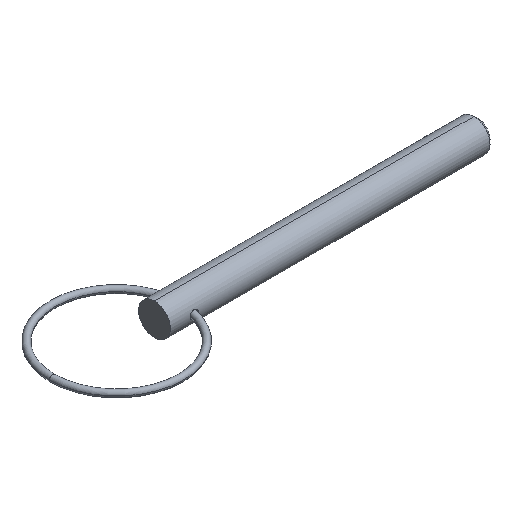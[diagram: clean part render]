
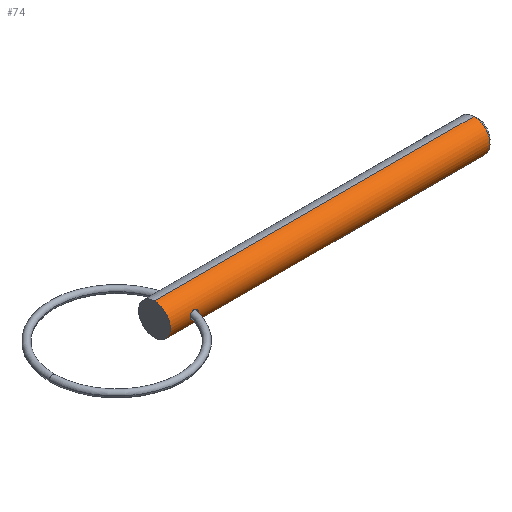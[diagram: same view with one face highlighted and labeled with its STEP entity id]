
A CAD part, isometric view. The second image highlights one B-rep face of the part: STEP entity #74.
In plain terms, the highlighted cylindrical face has radius 3.175 mm (diameter 6.35 mm), a partial arc.
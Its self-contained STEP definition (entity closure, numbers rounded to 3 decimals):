
#15 = CARTESIAN_POINT ( 'NONE',  ( 4.127, -3.138, -0.49 ) ) ;
#18 = CARTESIAN_POINT ( 'NONE',  ( 4.568, -3.075, -0.789 ) ) ;
#21 = VECTOR ( 'NONE', #733, 1000. ) ;
#22 = VERTEX_POINT ( 'NONE', #402 ) ;
#26 = ORIENTED_EDGE ( 'NONE', *, *, #762, .F. ) ;
#30 = CARTESIAN_POINT ( 'NONE',  ( 0., 0., 3.175 ) ) ;
#43 = AXIS2_PLACEMENT_3D ( 'NONE', #652, #70, #216 ) ;
#63 = CARTESIAN_POINT ( 'NONE',  ( 3.95, -3.175, 0. ) ) ;
#70 = DIRECTION ( 'NONE',  ( 1., 0., 0. ) ) ;
#74 = ADVANCED_FACE ( 'NONE', ( #286, #618 ), #626, .T. ) ;
#82 = DIRECTION ( 'NONE',  ( 1., 0., 0. ) ) ;
#89 = LINE ( 'NONE', #480, #284 ) ;
#91 = CARTESIAN_POINT ( 'NONE',  ( 0., 0., -3.175 ) ) ;
#93 = ORIENTED_EDGE ( 'NONE', *, *, #186, .T. ) ;
#110 = EDGE_CURVE ( 'NONE', #22, #294, #417, .T. ) ;
#119 = EDGE_CURVE ( 'NONE', #732, #683, #163, .T. ) ;
#131 = CARTESIAN_POINT ( 'NONE',  ( 0., 0., 0. ) ) ;
#140 = DIRECTION ( 'NONE',  ( 0., 0., -1. ) ) ;
#153 = CARTESIAN_POINT ( 'NONE',  ( 3.95, -3.175, 0. ) ) ;
#160 = LINE ( 'NONE', #91, #21 ) ;
#162 = ORIENTED_EDGE ( 'NONE', *, *, #623, .T. ) ;
#163 = B_SPLINE_CURVE_WITH_KNOTS ( 'NONE', 3,
 ( #716, #589, #527, #812, #241, #745, #512, #219, #410, #339, #475, #722, #380, #507, #394, #573 ),
 .UNSPECIFIED., .F., .F.,
 ( 4, 2, 2, 2, 2, 2, 2, 4 ),
 ( 0., 0.001, 0.001, 0.002, 0.002, 0.002, 0.003, 0.003 ),
 .UNSPECIFIED. ) ;
#168 = VERTEX_POINT ( 'NONE', #30 ) ;
#177 = CARTESIAN_POINT ( 'NONE',  ( 63.516, 0., -3.175 ) ) ;
#186 = EDGE_CURVE ( 'NONE', #470, #294, #160, .T. ) ;
#192 = CARTESIAN_POINT ( 'NONE',  ( 0., 0., 0. ) ) ;
#194 = B_SPLINE_CURVE_WITH_KNOTS ( 'NONE', 3,
 ( #341, #467, #456, #406, #724, #509, #273, #18, #283, #15, #395, #277, #522, #153 ),
 .UNSPECIFIED., .F., .F.,
 ( 4, 2, 2, 2, 2, 2, 4 ),
 ( 0.003, 0.003, 0.004, 0.004, 0.005, 0.005, 0.005 ),
 .UNSPECIFIED. ) ;
#198 = AXIS2_PLACEMENT_3D ( 'NONE', #192, #82, #140 ) ;
#216 = DIRECTION ( 'NONE',  ( 0., 0., -1. ) ) ;
#219 = CARTESIAN_POINT ( 'NONE',  ( 4.886, -3.074, 0.796 ) ) ;
#241 = CARTESIAN_POINT ( 'NONE',  ( 4.127, -3.138, 0.49 ) ) ;
#273 = CARTESIAN_POINT ( 'NONE',  ( 4.885, -3.074, -0.796 ) ) ;
#277 = CARTESIAN_POINT ( 'NONE',  ( 3.974, -3.169, -0.212 ) ) ;
#283 = CARTESIAN_POINT ( 'NONE',  ( 4.359, -3.099, -0.704 ) ) ;
#284 = VECTOR ( 'NONE', #543, 1000. ) ;
#286 = FACE_OUTER_BOUND ( 'NONE', #614, .T. ) ;
#294 = VERTEX_POINT ( 'NONE', #177 ) ;
#323 = CIRCLE ( 'NONE', #777, 3.175 ) ;
#331 = DIRECTION ( 'NONE',  ( 1., 0., 0. ) ) ;
#339 = CARTESIAN_POINT ( 'NONE',  ( 5.189, -3.097, 0.702 ) ) ;
#341 = CARTESIAN_POINT ( 'NONE',  ( 5.59, -3.175, 0. ) ) ;
#350 = DIRECTION ( 'NONE',  ( 0., 0., -1. ) ) ;
#357 = EDGE_LOOP ( 'NONE', ( #603, #162 ) ) ;
#380 = CARTESIAN_POINT ( 'NONE',  ( 5.489, -3.15, 0.407 ) ) ;
#394 = CARTESIAN_POINT ( 'NONE',  ( 5.59, -3.175, 0.106 ) ) ;
#395 = CARTESIAN_POINT ( 'NONE',  ( 4.064, -3.151, -0.404 ) ) ;
#402 = CARTESIAN_POINT ( 'NONE',  ( 63.516, 0., 3.175 ) ) ;
#406 = CARTESIAN_POINT ( 'NONE',  ( 5.279, -3.11, -0.644 ) ) ;
#410 = CARTESIAN_POINT ( 'NONE',  ( 4.992, -3.078, 0.778 ) ) ;
#417 = CIRCLE ( 'NONE', #43, 3.175 ) ;
#432 = ORIENTED_EDGE ( 'NONE', *, *, #110, .F. ) ;
#449 = CARTESIAN_POINT ( 'NONE',  ( 0., 0., -3.175 ) ) ;
#456 = CARTESIAN_POINT ( 'NONE',  ( 5.504, -3.15, -0.423 ) ) ;
#467 = CARTESIAN_POINT ( 'NONE',  ( 5.59, -3.175, -0.212 ) ) ;
#470 = VERTEX_POINT ( 'NONE', #449 ) ;
#475 = CARTESIAN_POINT ( 'NONE',  ( 5.279, -3.11, 0.644 ) ) ;
#480 = CARTESIAN_POINT ( 'NONE',  ( 0., 0., 3.175 ) ) ;
#507 = CARTESIAN_POINT ( 'NONE',  ( 5.569, -3.169, 0.212 ) ) ;
#509 = CARTESIAN_POINT ( 'NONE',  ( 4.992, -3.078, -0.778 ) ) ;
#512 = CARTESIAN_POINT ( 'NONE',  ( 4.567, -3.075, 0.789 ) ) ;
#522 = CARTESIAN_POINT ( 'NONE',  ( 3.95, -3.175, -0.106 ) ) ;
#527 = CARTESIAN_POINT ( 'NONE',  ( 3.974, -3.169, 0.212 ) ) ;
#543 = DIRECTION ( 'NONE',  ( 1., 0., 0. ) ) ;
#545 = ORIENTED_EDGE ( 'NONE', *, *, #680, .T. ) ;
#573 = CARTESIAN_POINT ( 'NONE',  ( 5.59, -3.175, 0. ) ) ;
#589 = CARTESIAN_POINT ( 'NONE',  ( 3.95, -3.175, 0.106 ) ) ;
#603 = ORIENTED_EDGE ( 'NONE', *, *, #119, .T. ) ;
#614 = EDGE_LOOP ( 'NONE', ( #26, #545, #93, #432 ) ) ;
#618 = FACE_BOUND ( 'NONE', #357, .T. ) ;
#623 = EDGE_CURVE ( 'NONE', #683, #732, #194, .T. ) ;
#626 = CYLINDRICAL_SURFACE ( 'NONE', #198, 3.175 ) ;
#652 = CARTESIAN_POINT ( 'NONE',  ( 63.516, 0., 0. ) ) ;
#680 = EDGE_CURVE ( 'NONE', #168, #470, #323, .T. ) ;
#683 = VERTEX_POINT ( 'NONE', #774 ) ;
#716 = CARTESIAN_POINT ( 'NONE',  ( 3.95, -3.175, 0. ) ) ;
#722 = CARTESIAN_POINT ( 'NONE',  ( 5.429, -3.137, 0.497 ) ) ;
#724 = CARTESIAN_POINT ( 'NONE',  ( 5.188, -3.097, -0.702 ) ) ;
#732 = VERTEX_POINT ( 'NONE', #63 ) ;
#733 = DIRECTION ( 'NONE',  ( 1., 0., 0. ) ) ;
#745 = CARTESIAN_POINT ( 'NONE',  ( 4.36, -3.099, 0.705 ) ) ;
#762 = EDGE_CURVE ( 'NONE', #168, #22, #89, .T. ) ;
#774 = CARTESIAN_POINT ( 'NONE',  ( 5.59, -3.175, 0. ) ) ;
#777 = AXIS2_PLACEMENT_3D ( 'NONE', #131, #331, #350 ) ;
#812 = CARTESIAN_POINT ( 'NONE',  ( 4.063, -3.151, 0.403 ) ) ;
